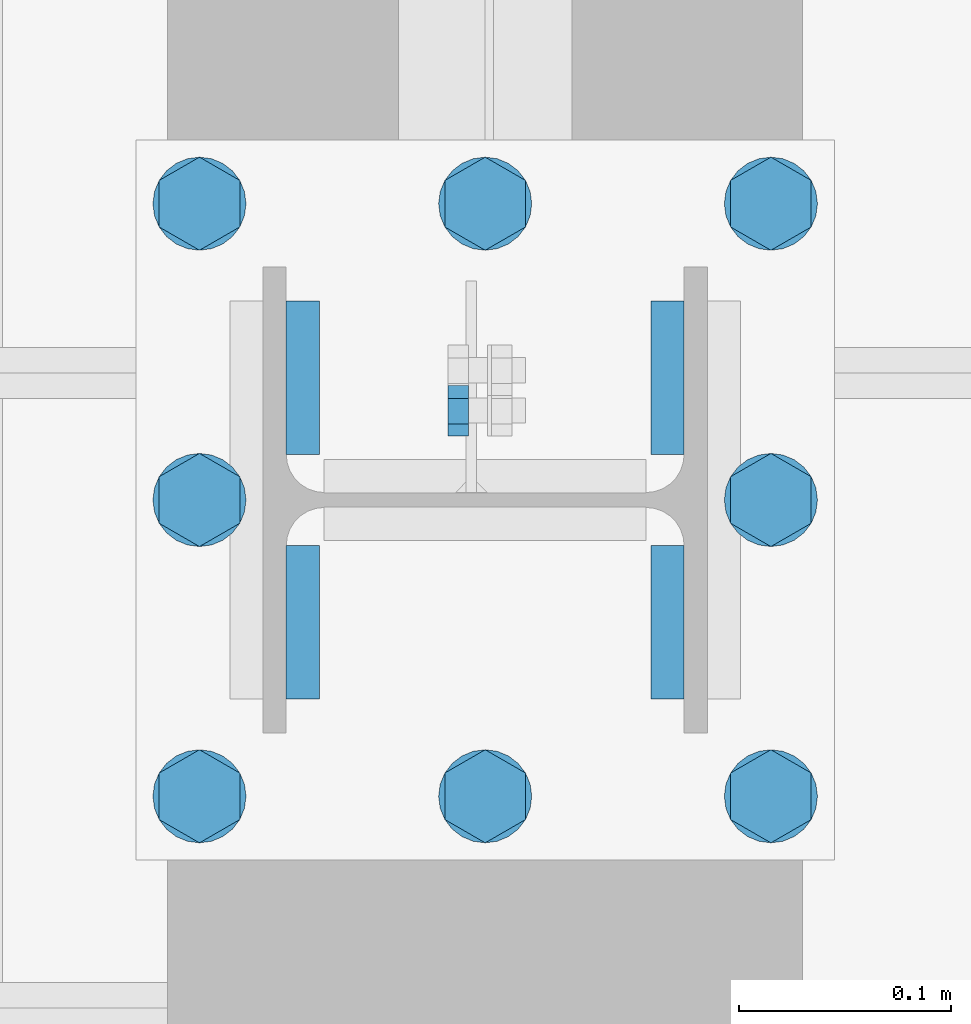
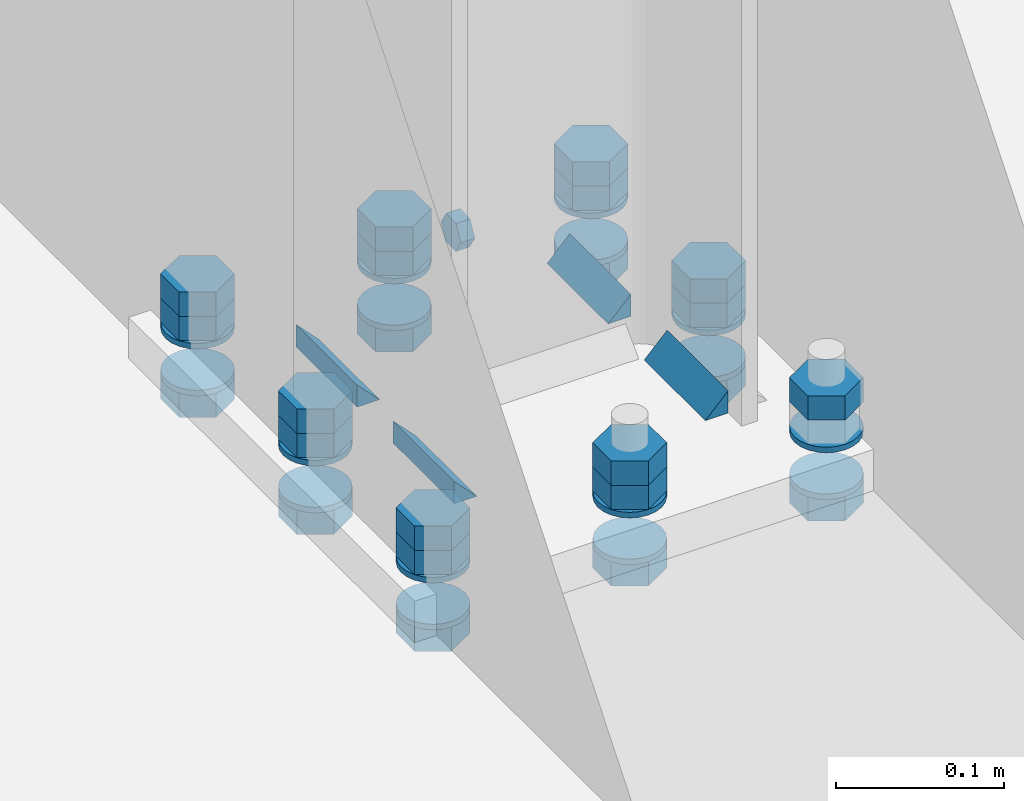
# One storey, part 20 of 29: 40 mechanical fasteners, 8 fasteners.
"""IFC4 building model written with IfcOpenShell, lengths in metres."""

from ifc_helpers import new_model, si_unit, frame, origin_with_axes, place, context, project, spatial, polyline, outline, extrude, type_object, element, save


model = new_model("IFC4")

# Units and contexts
model_context = context("Model", 3, precision=1e-05, world=origin_with_axes())
ifc_project = project(units=[si_unit("LENGTHUNIT", "METRE"), si_unit("AREAUNIT", "SQUARE_METRE"), si_unit("VOLUMEUNIT", "CUBIC_METRE"), si_unit("MASSUNIT", "GRAM", prefix="KILO"), si_unit("TIMEUNIT", "SECOND"), si_unit("PLANEANGLEUNIT", "RADIAN"), si_unit("SOLIDANGLEUNIT", "STERADIAN"), si_unit("THERMODYNAMICTEMPERATUREUNIT", "DEGREE_CELSIUS")], contexts=[model_context])

# Site, building, storey
placement_1 = place(None, origin_with_axes())
site = spatial("IfcSite", under=ifc_project, at=placement_1, Name="Italia", CompositionType="ELEMENT")
building = spatial("IfcBuilding", under=site, at=placement_1, Name="Capannone", CompositionType="ELEMENT")
storey = spatial("IfcBuildingStorey", under=building, at=placement_1, Name="Storey 0", CompositionType="ELEMENT", Elevation=0.0)

# Fasteners
fastener_type_1 = type_object("IfcFastenerType", Name="Collegamenti 0001_0101 0002_0102 0003_0103 0004_0104 0005_0105 0006_0106 0007_0107 0008_0108 0009_0109 0010_0110 0011_0111 0012_0112", PredefinedType="WELD")
placement_2 = place(placement_1, origin_with_axes())
fastener_1_placement = place(placement_2, origin_with_axes())
element("IfcFastener", 1, at=fastener_1_placement, inside=storey, type_object=fastener_type_1, Name="Collegamenti 0001_0101 0002_0102 0003_0103 0004_0104 0005_0105 0006_0106 0007_0107 0008_0108 0009_0109 0010_0110 0011_0111 0012_0112", context=model_context, shape_type="SweptSolid", body=[
    extrude(outline(polyline([(0.0, 0.0), (0.0156882, 0.0161734), (0.0156882, 0.0), (0.0, 0.0)])), frame((-0.0783618, 12.0215, 0.02995), z_axis=(0.0, 1.0, 0.0), x_axis=(-1.0, 0.0, 0.0)), (0.0, 0.0, 1.0), 0.0726004),
])
fastener_type_2 = type_object("IfcFastenerType", Name="Collegamenti 0001_0101 0002_0102 0003_0103 0004_0104 0005_0105 0006_0106 0007_0107 0008_0108 0009_0109 0010_0110 0011_0111 0012_0112", PredefinedType="WELD")
fastener_2_placement = place(placement_2, origin_with_axes())
element("IfcFastener", 2, at=fastener_2_placement, inside=storey, type_object=fastener_type_2, Name="Collegamenti 0001_0101 0002_0102 0003_0103 0004_0104 0005_0105 0006_0106 0007_0107 0008_0108 0009_0109 0010_0110 0011_0111 0012_0112", context=model_context, shape_type="SweptSolid", body=[
    extrude(outline(polyline([(0.0, 0.0), (0.0156882, 0.0161734), (0.0156882, 0.0), (0.0, 0.0)])), frame((0.0783618, 12.0941, 0.02995), z_axis=(0.0, -1.0, 0.0), x_axis=(1.0, 0.0, 0.0)), (0.0, 0.0, 1.0), 0.0726004),
])
fastener_type_3 = type_object("IfcFastenerType", Name="Collegamenti 0001_0101 0002_0102 0003_0103 0004_0104 0005_0105 0006_0106 0007_0107 0008_0108 0009_0109 0010_0110 0011_0111 0012_0112", PredefinedType="WELD")
fastener_3_placement = place(placement_2, origin_with_axes())
element("IfcFastener", 3, at=fastener_3_placement, inside=storey, type_object=fastener_type_3, Name="Collegamenti 0001_0101 0002_0102 0003_0103 0004_0104 0005_0105 0006_0106 0007_0107 0008_0108 0009_0109 0010_0110 0011_0111 0012_0112", context=model_context, shape_type="SweptSolid", body=[
    extrude(outline(polyline([(0.0, 0.0), (0.0156882, 0.0161734), (0.0156882, 0.0), (0.0, 0.0)])), frame((0.0783618, 11.9785, 0.02995), z_axis=(0.0, -1.0, 0.0), x_axis=(1.0, 0.0, 0.0)), (0.0, 0.0, 1.0), 0.0726004),
])
fastener_type_4 = type_object("IfcFastenerType", Name="Collegamenti 0001_0101 0002_0102 0003_0103 0004_0104 0005_0105 0006_0106 0007_0107 0008_0108 0009_0109 0010_0110 0011_0111 0012_0112", PredefinedType="WELD")
fastener_4_placement = place(placement_2, origin_with_axes())
element("IfcFastener", 4, at=fastener_4_placement, inside=storey, type_object=fastener_type_4, Name="Collegamenti 0001_0101 0002_0102 0003_0103 0004_0104 0005_0105 0006_0106 0007_0107 0008_0108 0009_0109 0010_0110 0011_0111 0012_0112", context=model_context, shape_type="SweptSolid", body=[
    extrude(outline(polyline([(0.0, 0.0), (0.0156882, 0.0161734), (0.0156882, 0.0), (0.0, 0.0)])), frame((-0.0783618, 11.9059, 0.02995), z_axis=(0.0, 1.0, 0.0), x_axis=(-1.0, 0.0, 0.0)), (0.0, 0.0, 1.0), 0.0726004),
])
fastener_type_5 = type_object("IfcFastenerType", Name="Collegamenti 0001_0101 0002_0102 0003_0103 0004_0104 0005_0105 0006_0106 0007_0107 0008_0108 0009_0109 0010_0110 0011_0111 0012_0112", PredefinedType="WELD")
fastener_5_placement = place(placement_2, origin_with_axes())
element("IfcFastener", 5, at=fastener_5_placement, inside=storey, type_object=fastener_type_5, Name="Collegamenti 0001_0101 0002_0102 0003_0103 0004_0104 0005_0105 0006_0106 0007_0107 0008_0108 0009_0109 0010_0110 0011_0111 0012_0112", context=model_context, shape_type="SweptSolid", body=[
    extrude(outline(polyline([(0.0, 0.0), (0.0156882, 0.0161734), (0.0156882, 0.0), (0.0, 0.0)])), frame((-0.0783618, 12.0215, 0.02995), z_axis=(0.0, 1.0, 0.0), x_axis=(-1.0, 0.0, 0.0)), (0.0, 0.0, 1.0), 0.0726004),
])
fastener_type_6 = type_object("IfcFastenerType", Name="Collegamenti 0001_0101 0002_0102 0003_0103 0004_0104 0005_0105 0006_0106 0007_0107 0008_0108 0009_0109 0010_0110 0011_0111 0012_0112", PredefinedType="WELD")
fastener_6_placement = place(placement_2, origin_with_axes())
element("IfcFastener", 6, at=fastener_6_placement, inside=storey, type_object=fastener_type_6, Name="Collegamenti 0001_0101 0002_0102 0003_0103 0004_0104 0005_0105 0006_0106 0007_0107 0008_0108 0009_0109 0010_0110 0011_0111 0012_0112", context=model_context, shape_type="SweptSolid", body=[
    extrude(outline(polyline([(0.0, 0.0), (0.0156882, 0.0161734), (0.0156882, 0.0), (0.0, 0.0)])), frame((0.0783618, 12.0941, 0.02995), z_axis=(0.0, -1.0, 0.0), x_axis=(1.0, 0.0, 0.0)), (0.0, 0.0, 1.0), 0.0726004),
])
fastener_type_7 = type_object("IfcFastenerType", Name="Collegamenti 0001_0101 0002_0102 0003_0103 0004_0104 0005_0105 0006_0106 0007_0107 0008_0108 0009_0109 0010_0110 0011_0111 0012_0112", PredefinedType="WELD")
fastener_7_placement = place(placement_2, origin_with_axes())
element("IfcFastener", 7, at=fastener_7_placement, inside=storey, type_object=fastener_type_7, Name="Collegamenti 0001_0101 0002_0102 0003_0103 0004_0104 0005_0105 0006_0106 0007_0107 0008_0108 0009_0109 0010_0110 0011_0111 0012_0112", context=model_context, shape_type="SweptSolid", body=[
    extrude(outline(polyline([(0.0, 0.0), (0.0156882, 0.0161734), (0.0156882, 0.0), (0.0, 0.0)])), frame((0.0783618, 11.9785, 0.02995), z_axis=(0.0, -1.0, 0.0), x_axis=(1.0, 0.0, 0.0)), (0.0, 0.0, 1.0), 0.0726004),
])
fastener_type_8 = type_object("IfcFastenerType", Name="Collegamenti 0001_0101 0002_0102 0003_0103 0004_0104 0005_0105 0006_0106 0007_0107 0008_0108 0009_0109 0010_0110 0011_0111 0012_0112", PredefinedType="WELD")
fastener_8_placement = place(placement_2, origin_with_axes())
element("IfcFastener", 8, at=fastener_8_placement, inside=storey, type_object=fastener_type_8, Name="Collegamenti 0001_0101 0002_0102 0003_0103 0004_0104 0005_0105 0006_0106 0007_0107 0008_0108 0009_0109 0010_0110 0011_0111 0012_0112", context=model_context, shape_type="SweptSolid", body=[
    extrude(outline(polyline([(0.0, 0.0), (0.0156882, 0.0161734), (0.0156882, 0.0), (0.0, 0.0)])), frame((-0.0783618, 11.9059, 0.02995), z_axis=(0.0, 1.0, 0.0), x_axis=(-1.0, 0.0, 0.0)), (0.0, 0.0, 1.0), 0.0726004),
])

# Mechanical fasteners
mechanical_fastener_type_1 = type_object("IfcMechanicalFastenerType", Name="Collegamenti 0001_0101 0002_0102 0003_0103 0004_0104 0005_0105 0006_0106 0007_0107 0008_0108 0009_0109 0010_0110 0011_0111 0012_0112", PredefinedType="BOLT")
mechanical_fastener_1_placement = place(placement_2, origin_with_axes())
element("IfcMechanicalFastener", 9, at=mechanical_fastener_1_placement, inside=storey, type_object=mechanical_fastener_type_1, Name="Collegamenti 0001_0101 0002_0102 0003_0103 0004_0104 0005_0105 0006_0106 0007_0107 0008_0108 0009_0109 0010_0110 0011_0111 0012_0112", NominalDiameter=0.0219998, context=model_context, shape_type="SweptSolid", body=[
    extrude(outline(polyline([(0.0, 0.0), (-0.0220003, 0.0), (-0.033, 0.0190526), (-0.0220003, 0.0381051), (0.0, 0.0381051), (0.0109997, 0.0190526), (0.0, 0.0)])), frame((0.154053, 11.871, 0.0516), z_axis=(0.0, 0.0, 1.0), x_axis=(0.0, 1.0, 0.0)), (0.0, 0.0, 1.0), 0.0176),
])
mechanical_fastener_type_2 = type_object("IfcMechanicalFastenerType", Name="Collegamenti 0001_0101 0002_0102 0003_0103 0004_0104 0005_0105 0006_0106 0007_0107 0008_0108 0009_0109 0010_0110 0011_0111 0012_0112", PredefinedType="BOLT")
mechanical_fastener_2_placement = place(placement_2, origin_with_axes())
element("IfcMechanicalFastener", 10, at=mechanical_fastener_2_placement, inside=storey, type_object=mechanical_fastener_type_2, Name="Collegamenti 0001_0101 0002_0102 0003_0103 0004_0104 0005_0105 0006_0106 0007_0107 0008_0108 0009_0109 0010_0110 0011_0111 0012_0112", NominalDiameter=0.0219998, context=model_context, shape_type="SweptSolid", body=[
    extrude(outline(polyline([(0.0, 0.0), (-0.0220003, 0.0), (-0.033, 0.0190526), (-0.0220003, 0.0381051), (0.0, 0.0381051), (0.0109997, 0.0190526), (0.0, 0.0)])), frame((0.154053, 11.871, -0.0216), z_axis=(0.0, 0.0, 1.0), x_axis=(0.0, 1.0, 0.0)), (0.0, 0.0, 1.0), 0.0176),
])
mechanical_fastener_type_3 = type_object("IfcMechanicalFastenerType", Name="Collegamenti 0001_0101 0002_0102 0003_0103 0004_0104 0005_0105 0006_0106 0007_0107 0008_0108 0009_0109 0010_0110 0011_0111 0012_0112", PredefinedType="BOLT")
mechanical_fastener_3_placement = place(placement_2, origin_with_axes())
element("IfcMechanicalFastener", 11, at=mechanical_fastener_3_placement, inside=storey, type_object=mechanical_fastener_type_3, Name="Collegamenti 0001_0101 0002_0102 0003_0103 0004_0104 0005_0105 0006_0106 0007_0107 0008_0108 0009_0109 0010_0110 0011_0111 0012_0112", NominalDiameter=0.044, context=model_context, shape_type="SweptSolid", body=[
    extrude(outline(polyline([(0.0, 0.0), (-0.000749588, -0.00569402), (-0.00294781, -0.011), (-0.00644398, -0.0155564), (-0.0110006, -0.0190526), (-0.0163059, -0.0212504), (-0.0220003, -0.022), (-0.0276947, -0.0212504), (-0.033, -0.0190526), (-0.0375566, -0.0155564), (-0.0410528, -0.011), (-0.043251, -0.00569402), (-0.0440006, 0.0), (-0.043251, 0.00569402), (-0.0410528, 0.011), (-0.0375566, 0.0155564), (-0.033, 0.0190526), (-0.0276947, 0.0212504), (-0.0220003, 0.022), (-0.0163059, 0.0212504), (-0.0110006, 0.0190526), (-0.00644398, 0.0155563), (-0.00294781, 0.011), (-0.000749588, 0.00569402), (0.0, 0.0)])), frame((0.135, 11.882, 0.03), z_axis=(0.0, 0.0, 1.0), x_axis=(0.0, 1.0, 0.0)), (0.0, 0.0, 1.0), 0.004),
])
mechanical_fastener_type_4 = type_object("IfcMechanicalFastenerType", Name="Collegamenti 0001_0101 0002_0102 0003_0103 0004_0104 0005_0105 0006_0106 0007_0107 0008_0108 0009_0109 0010_0110 0011_0111 0012_0112", PredefinedType="BOLT")
mechanical_fastener_4_placement = place(placement_2, origin_with_axes())
element("IfcMechanicalFastener", 12, at=mechanical_fastener_4_placement, inside=storey, type_object=mechanical_fastener_type_4, Name="Collegamenti 0001_0101 0002_0102 0003_0103 0004_0104 0005_0105 0006_0106 0007_0107 0008_0108 0009_0109 0010_0110 0011_0111 0012_0112", NominalDiameter=0.044, context=model_context, shape_type="SweptSolid", body=[
    extrude(outline(polyline([(0.0, 0.0), (-0.000749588, -0.00569402), (-0.00294781, -0.011), (-0.00644398, -0.0155564), (-0.0110006, -0.0190526), (-0.0163059, -0.0212504), (-0.0220003, -0.022), (-0.0276947, -0.0212504), (-0.033, -0.0190526), (-0.0375566, -0.0155564), (-0.0410528, -0.011), (-0.043251, -0.00569402), (-0.0440006, 0.0), (-0.043251, 0.00569402), (-0.0410528, 0.011), (-0.0375566, 0.0155564), (-0.033, 0.0190526), (-0.0276947, 0.0212504), (-0.0220003, 0.022), (-0.0163059, 0.0212504), (-0.0110006, 0.0190526), (-0.00644398, 0.0155563), (-0.00294781, 0.011), (-0.000749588, 0.00569402), (0.0, 0.0)])), frame((0.135, 11.882, -0.004), z_axis=(0.0, 0.0, 1.0), x_axis=(0.0, 1.0, 0.0)), (0.0, 0.0, 1.0), 0.004),
])
mechanical_fastener_type_5 = type_object("IfcMechanicalFastenerType", Name="Collegamenti 0001_0101 0002_0102 0003_0103 0004_0104 0005_0105 0006_0106 0007_0107 0008_0108 0009_0109 0010_0110 0011_0111 0012_0112", PredefinedType="BOLT")
mechanical_fastener_5_placement = place(placement_2, origin_with_axes())
element("IfcMechanicalFastener", 13, at=mechanical_fastener_5_placement, inside=storey, type_object=mechanical_fastener_type_5, Name="Collegamenti 0001_0101 0002_0102 0003_0103 0004_0104 0005_0105 0006_0106 0007_0107 0008_0108 0009_0109 0010_0110 0011_0111 0012_0112", NominalDiameter=0.0219994, context=model_context, shape_type="SweptSolid", body=[
    extrude(outline(polyline([(0.0, 0.0), (-0.0219994, 0.0), (-0.033, 0.0190526), (-0.0219994, 0.0381051), (0.0, 0.0381051), (0.0110006, 0.0190526), (0.0, 0.0)])), frame((0.154053, 12.011, 0.034), z_axis=(0.0, 0.0, 1.0), x_axis=(0.0, 1.0, 0.0)), (0.0, 0.0, 1.0), 0.0176),
])
mechanical_fastener_type_6 = type_object("IfcMechanicalFastenerType", Name="Collegamenti 0001_0101 0002_0102 0003_0103 0004_0104 0005_0105 0006_0106 0007_0107 0008_0108 0009_0109 0010_0110 0011_0111 0012_0112", PredefinedType="BOLT")
mechanical_fastener_6_placement = place(placement_2, origin_with_axes())
element("IfcMechanicalFastener", 14, at=mechanical_fastener_6_placement, inside=storey, type_object=mechanical_fastener_type_6, Name="Collegamenti 0001_0101 0002_0102 0003_0103 0004_0104 0005_0105 0006_0106 0007_0107 0008_0108 0009_0109 0010_0110 0011_0111 0012_0112", NominalDiameter=0.0219994, context=model_context, shape_type="SweptSolid", body=[
    extrude(outline(polyline([(0.0, 0.0), (-0.0219994, 0.0), (-0.033, 0.0190526), (-0.0219994, 0.0381051), (0.0, 0.0381051), (0.0110006, 0.0190526), (0.0, 0.0)])), frame((0.154053, 12.011, 0.0516), z_axis=(0.0, 0.0, 1.0), x_axis=(0.0, 1.0, 0.0)), (0.0, 0.0, 1.0), 0.0176),
])
mechanical_fastener_type_7 = type_object("IfcMechanicalFastenerType", Name="Collegamenti 0001_0101 0002_0102 0003_0103 0004_0104 0005_0105 0006_0106 0007_0107 0008_0108 0009_0109 0010_0110 0011_0111 0012_0112", PredefinedType="BOLT")
mechanical_fastener_7_placement = place(placement_2, origin_with_axes())
element("IfcMechanicalFastener", 15, at=mechanical_fastener_7_placement, inside=storey, type_object=mechanical_fastener_type_7, Name="Collegamenti 0001_0101 0002_0102 0003_0103 0004_0104 0005_0105 0006_0106 0007_0107 0008_0108 0009_0109 0010_0110 0011_0111 0012_0112", NominalDiameter=0.0219994, context=model_context, shape_type="SweptSolid", body=[
    extrude(outline(polyline([(0.0, 0.0), (-0.0219994, 0.0), (-0.033, 0.0190526), (-0.0219994, 0.0381051), (0.0, 0.0381051), (0.0110006, 0.0190526), (0.0, 0.0)])), frame((0.154053, 12.011, -0.0216), z_axis=(0.0, 0.0, 1.0), x_axis=(0.0, 1.0, 0.0)), (0.0, 0.0, 1.0), 0.0176),
])
mechanical_fastener_type_8 = type_object("IfcMechanicalFastenerType", Name="Collegamenti 0001_0101 0002_0102 0003_0103 0004_0104 0005_0105 0006_0106 0007_0107 0008_0108 0009_0109 0010_0110 0011_0111 0012_0112", PredefinedType="BOLT")
mechanical_fastener_8_placement = place(placement_2, origin_with_axes())
element("IfcMechanicalFastener", 16, at=mechanical_fastener_8_placement, inside=storey, type_object=mechanical_fastener_type_8, Name="Collegamenti 0001_0101 0002_0102 0003_0103 0004_0104 0005_0105 0006_0106 0007_0107 0008_0108 0009_0109 0010_0110 0011_0111 0012_0112", NominalDiameter=0.044, context=model_context, shape_type="SweptSolid", body=[
    extrude(outline(polyline([(0.0, 0.0), (-0.000749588, -0.00569402), (-0.00294781, -0.011), (-0.00644398, -0.0155564), (-0.0110006, -0.0190526), (-0.0163059, -0.0212504), (-0.0220003, -0.022), (-0.0276947, -0.0212504), (-0.033, -0.0190526), (-0.0375566, -0.0155564), (-0.0410528, -0.011), (-0.043251, -0.00569402), (-0.0440006, 0.0), (-0.043251, 0.00569402), (-0.0410528, 0.011), (-0.0375566, 0.0155564), (-0.033, 0.0190526), (-0.0276947, 0.0212504), (-0.0220003, 0.022), (-0.0163059, 0.0212504), (-0.0110006, 0.0190526), (-0.00644398, 0.0155563), (-0.00294781, 0.011), (-0.000749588, 0.00569402), (0.0, 0.0)])), frame((0.135, 12.022, 0.03), z_axis=(0.0, 0.0, 1.0), x_axis=(0.0, 1.0, 0.0)), (0.0, 0.0, 1.0), 0.004),
])
mechanical_fastener_type_9 = type_object("IfcMechanicalFastenerType", Name="Collegamenti 0001_0101 0002_0102 0003_0103 0004_0104 0005_0105 0006_0106 0007_0107 0008_0108 0009_0109 0010_0110 0011_0111 0012_0112", PredefinedType="BOLT")
mechanical_fastener_9_placement = place(placement_2, origin_with_axes())
element("IfcMechanicalFastener", 17, at=mechanical_fastener_9_placement, inside=storey, type_object=mechanical_fastener_type_9, Name="Collegamenti 0001_0101 0002_0102 0003_0103 0004_0104 0005_0105 0006_0106 0007_0107 0008_0108 0009_0109 0010_0110 0011_0111 0012_0112", NominalDiameter=0.044, context=model_context, shape_type="SweptSolid", body=[
    extrude(outline(polyline([(0.0, 0.0), (-0.000749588, -0.00569402), (-0.00294781, -0.011), (-0.00644398, -0.0155564), (-0.0110006, -0.0190526), (-0.0163059, -0.0212504), (-0.0220003, -0.022), (-0.0276947, -0.0212504), (-0.033, -0.0190526), (-0.0375566, -0.0155564), (-0.0410528, -0.011), (-0.043251, -0.00569402), (-0.0440006, 0.0), (-0.043251, 0.00569402), (-0.0410528, 0.011), (-0.0375566, 0.0155564), (-0.033, 0.0190526), (-0.0276947, 0.0212504), (-0.0220003, 0.022), (-0.0163059, 0.0212504), (-0.0110006, 0.0190526), (-0.00644398, 0.0155563), (-0.00294781, 0.011), (-0.000749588, 0.00569402), (0.0, 0.0)])), frame((0.135, 12.022, -0.004), z_axis=(0.0, 0.0, 1.0), x_axis=(0.0, 1.0, 0.0)), (0.0, 0.0, 1.0), 0.004),
])
mechanical_fastener_type_10 = type_object("IfcMechanicalFastenerType", Name="Collegamenti 0001_0101 0002_0102 0003_0103 0004_0104 0005_0105 0006_0106 0007_0107 0008_0108 0009_0109 0010_0110 0011_0111 0012_0112", PredefinedType="BOLT")
mechanical_fastener_10_placement = place(placement_2, origin_with_axes())
element("IfcMechanicalFastener", 18, at=mechanical_fastener_10_placement, inside=storey, type_object=mechanical_fastener_type_10, Name="Collegamenti 0001_0101 0002_0102 0003_0103 0004_0104 0005_0105 0006_0106 0007_0107 0008_0108 0009_0109 0010_0110 0011_0111 0012_0112", NominalDiameter=0.0219998, context=model_context, shape_type="SweptSolid", body=[
    extrude(outline(polyline([(0.0, 0.0), (-0.0220003, 0.0), (-0.033, 0.0190526), (-0.0220003, 0.0381051), (0.0, 0.0381051), (0.0109997, 0.0190526), (0.0, 0.0)])), frame((0.154053, 12.151, 0.034), z_axis=(0.0, 0.0, 1.0), x_axis=(0.0, 1.0, 0.0)), (0.0, 0.0, 1.0), 0.0176),
])
mechanical_fastener_type_11 = type_object("IfcMechanicalFastenerType", Name="Collegamenti 0001_0101 0002_0102 0003_0103 0004_0104 0005_0105 0006_0106 0007_0107 0008_0108 0009_0109 0010_0110 0011_0111 0012_0112", PredefinedType="BOLT")
mechanical_fastener_11_placement = place(placement_2, origin_with_axes())
element("IfcMechanicalFastener", 19, at=mechanical_fastener_11_placement, inside=storey, type_object=mechanical_fastener_type_11, Name="Collegamenti 0001_0101 0002_0102 0003_0103 0004_0104 0005_0105 0006_0106 0007_0107 0008_0108 0009_0109 0010_0110 0011_0111 0012_0112", NominalDiameter=0.0219998, context=model_context, shape_type="SweptSolid", body=[
    extrude(outline(polyline([(0.0, 0.0), (-0.0220003, 0.0), (-0.033, 0.0190526), (-0.0220003, 0.0381051), (0.0, 0.0381051), (0.0109997, 0.0190526), (0.0, 0.0)])), frame((0.154053, 12.151, 0.0516), z_axis=(0.0, 0.0, 1.0), x_axis=(0.0, 1.0, 0.0)), (0.0, 0.0, 1.0), 0.0176),
])
mechanical_fastener_type_12 = type_object("IfcMechanicalFastenerType", Name="Collegamenti 0001_0101 0002_0102 0003_0103 0004_0104 0005_0105 0006_0106 0007_0107 0008_0108 0009_0109 0010_0110 0011_0111 0012_0112", PredefinedType="BOLT")
mechanical_fastener_12_placement = place(placement_2, origin_with_axes())
element("IfcMechanicalFastener", 20, at=mechanical_fastener_12_placement, inside=storey, type_object=mechanical_fastener_type_12, Name="Collegamenti 0001_0101 0002_0102 0003_0103 0004_0104 0005_0105 0006_0106 0007_0107 0008_0108 0009_0109 0010_0110 0011_0111 0012_0112", NominalDiameter=0.0219998, context=model_context, shape_type="SweptSolid", body=[
    extrude(outline(polyline([(0.0, 0.0), (-0.0220003, 0.0), (-0.033, 0.0190526), (-0.0220003, 0.0381051), (0.0, 0.0381051), (0.0109997, 0.0190526), (0.0, 0.0)])), frame((0.154053, 12.151, -0.0216), z_axis=(0.0, 0.0, 1.0), x_axis=(0.0, 1.0, 0.0)), (0.0, 0.0, 1.0), 0.0176),
])
mechanical_fastener_type_13 = type_object("IfcMechanicalFastenerType", Name="Collegamenti 0001_0101 0002_0102 0003_0103 0004_0104 0005_0105 0006_0106 0007_0107 0008_0108 0009_0109 0010_0110 0011_0111 0012_0112", PredefinedType="BOLT")
mechanical_fastener_13_placement = place(placement_2, origin_with_axes())
element("IfcMechanicalFastener", 21, at=mechanical_fastener_13_placement, inside=storey, type_object=mechanical_fastener_type_13, Name="Collegamenti 0001_0101 0002_0102 0003_0103 0004_0104 0005_0105 0006_0106 0007_0107 0008_0108 0009_0109 0010_0110 0011_0111 0012_0112", NominalDiameter=0.044, context=model_context, shape_type="SweptSolid", body=[
    extrude(outline(polyline([(0.0, 0.0), (-0.000749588, -0.00569402), (-0.00294781, -0.011), (-0.00644398, -0.0155564), (-0.0110006, -0.0190526), (-0.0163059, -0.0212504), (-0.0220003, -0.022), (-0.0276947, -0.0212504), (-0.033, -0.0190526), (-0.0375566, -0.0155564), (-0.0410528, -0.011), (-0.043251, -0.00569402), (-0.0440006, 0.0), (-0.043251, 0.00569402), (-0.0410528, 0.011), (-0.0375566, 0.0155564), (-0.033, 0.0190526), (-0.0276947, 0.0212504), (-0.0220003, 0.022), (-0.0163059, 0.0212504), (-0.0110006, 0.0190526), (-0.00644398, 0.0155563), (-0.00294781, 0.011), (-0.000749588, 0.00569402), (0.0, 0.0)])), frame((0.135, 12.162, 0.03), z_axis=(0.0, 0.0, 1.0), x_axis=(0.0, 1.0, 0.0)), (0.0, 0.0, 1.0), 0.004),
])
mechanical_fastener_type_14 = type_object("IfcMechanicalFastenerType", Name="Collegamenti 0001_0101 0002_0102 0003_0103 0004_0104 0005_0105 0006_0106 0007_0107 0008_0108 0009_0109 0010_0110 0011_0111 0012_0112", PredefinedType="BOLT")
mechanical_fastener_14_placement = place(placement_2, origin_with_axes())
element("IfcMechanicalFastener", 22, at=mechanical_fastener_14_placement, inside=storey, type_object=mechanical_fastener_type_14, Name="Collegamenti 0001_0101 0002_0102 0003_0103 0004_0104 0005_0105 0006_0106 0007_0107 0008_0108 0009_0109 0010_0110 0011_0111 0012_0112", NominalDiameter=0.044, context=model_context, shape_type="SweptSolid", body=[
    extrude(outline(polyline([(0.0, 0.0), (-0.000749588, -0.00569402), (-0.00294781, -0.011), (-0.00644398, -0.0155564), (-0.0110006, -0.0190526), (-0.0163059, -0.0212504), (-0.0220003, -0.022), (-0.0276947, -0.0212504), (-0.033, -0.0190526), (-0.0375566, -0.0155564), (-0.0410528, -0.011), (-0.043251, -0.00569402), (-0.0440006, 0.0), (-0.043251, 0.00569402), (-0.0410528, 0.011), (-0.0375566, 0.0155564), (-0.033, 0.0190526), (-0.0276947, 0.0212504), (-0.0220003, 0.022), (-0.0163059, 0.0212504), (-0.0110006, 0.0190526), (-0.00644398, 0.0155563), (-0.00294781, 0.011), (-0.000749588, 0.00569402), (0.0, 0.0)])), frame((0.135, 12.162, -0.004), z_axis=(0.0, 0.0, 1.0), x_axis=(0.0, 1.0, 0.0)), (0.0, 0.0, 1.0), 0.004),
])
mechanical_fastener_type_15 = type_object("IfcMechanicalFastenerType", Name="Collegamenti 0001_0101 0002_0102 0003_0103 0004_0104 0005_0105 0006_0106 0007_0107 0008_0108 0009_0109 0010_0110 0011_0111 0012_0112", PredefinedType="BOLT")
mechanical_fastener_15_placement = place(placement_2, origin_with_axes())
element("IfcMechanicalFastener", 23, at=mechanical_fastener_15_placement, inside=storey, type_object=mechanical_fastener_type_15, Name="Collegamenti 0001_0101 0002_0102 0003_0103 0004_0104 0005_0105 0006_0106 0007_0107 0008_0108 0009_0109 0010_0110 0011_0111 0012_0112", NominalDiameter=0.0219998, context=model_context, shape_type="SweptSolid", body=[
    extrude(outline(polyline([(0.0, 0.0), (-0.0220003, 0.0), (-0.033, 0.0190526), (-0.0220003, 0.0381051), (0.0, 0.0381051), (0.0109997, 0.0190526), (0.0, 0.0)])), frame((0.0190526, 11.871, 0.034), z_axis=(0.0, 0.0, 1.0), x_axis=(0.0, 1.0, 0.0)), (0.0, 0.0, 1.0), 0.0176),
])
mechanical_fastener_type_16 = type_object("IfcMechanicalFastenerType", Name="Collegamenti 0001_0101 0002_0102 0003_0103 0004_0104 0005_0105 0006_0106 0007_0107 0008_0108 0009_0109 0010_0110 0011_0111 0012_0112", PredefinedType="BOLT")
mechanical_fastener_16_placement = place(placement_2, origin_with_axes())
element("IfcMechanicalFastener", 24, at=mechanical_fastener_16_placement, inside=storey, type_object=mechanical_fastener_type_16, Name="Collegamenti 0001_0101 0002_0102 0003_0103 0004_0104 0005_0105 0006_0106 0007_0107 0008_0108 0009_0109 0010_0110 0011_0111 0012_0112", NominalDiameter=0.0219998, context=model_context, shape_type="SweptSolid", body=[
    extrude(outline(polyline([(0.0, 0.0), (-0.0220003, 0.0), (-0.033, 0.0190526), (-0.0220003, 0.0381051), (0.0, 0.0381051), (0.0109997, 0.0190526), (0.0, 0.0)])), frame((0.0190526, 11.871, 0.0516), z_axis=(0.0, 0.0, 1.0), x_axis=(0.0, 1.0, 0.0)), (0.0, 0.0, 1.0), 0.0176),
])
mechanical_fastener_type_17 = type_object("IfcMechanicalFastenerType", Name="Collegamenti 0001_0101 0002_0102 0003_0103 0004_0104 0005_0105 0006_0106 0007_0107 0008_0108 0009_0109 0010_0110 0011_0111 0012_0112", PredefinedType="BOLT")
mechanical_fastener_17_placement = place(placement_2, origin_with_axes())
element("IfcMechanicalFastener", 25, at=mechanical_fastener_17_placement, inside=storey, type_object=mechanical_fastener_type_17, Name="Collegamenti 0001_0101 0002_0102 0003_0103 0004_0104 0005_0105 0006_0106 0007_0107 0008_0108 0009_0109 0010_0110 0011_0111 0012_0112", NominalDiameter=0.0219998, context=model_context, shape_type="SweptSolid", body=[
    extrude(outline(polyline([(0.0, 0.0), (-0.0220003, 0.0), (-0.033, 0.0190526), (-0.0220003, 0.0381051), (0.0, 0.0381051), (0.0109997, 0.0190526), (0.0, 0.0)])), frame((0.0190526, 11.871, -0.0216), z_axis=(0.0, 0.0, 1.0), x_axis=(0.0, 1.0, 0.0)), (0.0, 0.0, 1.0), 0.0176),
])
mechanical_fastener_type_18 = type_object("IfcMechanicalFastenerType", Name="Collegamenti 0001_0101 0002_0102 0003_0103 0004_0104 0005_0105 0006_0106 0007_0107 0008_0108 0009_0109 0010_0110 0011_0111 0012_0112", PredefinedType="BOLT")
mechanical_fastener_18_placement = place(placement_2, origin_with_axes())
element("IfcMechanicalFastener", 26, at=mechanical_fastener_18_placement, inside=storey, type_object=mechanical_fastener_type_18, Name="Collegamenti 0001_0101 0002_0102 0003_0103 0004_0104 0005_0105 0006_0106 0007_0107 0008_0108 0009_0109 0010_0110 0011_0111 0012_0112", NominalDiameter=0.044, context=model_context, shape_type="SweptSolid", body=[
    extrude(outline(polyline([(0.0, 0.0), (-0.000749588, -0.00569402), (-0.00294781, -0.011), (-0.00644398, -0.0155563), (-0.0110006, -0.0190526), (-0.0163059, -0.0212504), (-0.0220003, -0.022), (-0.0276947, -0.0212504), (-0.033, -0.0190526), (-0.0375566, -0.0155563), (-0.0410528, -0.011), (-0.043251, -0.00569402), (-0.0440006, 0.0), (-0.043251, 0.00569402), (-0.0410528, 0.011), (-0.0375566, 0.0155564), (-0.033, 0.0190526), (-0.0276947, 0.0212504), (-0.0220003, 0.022), (-0.0163059, 0.0212504), (-0.0110006, 0.0190526), (-0.00644398, 0.0155563), (-0.00294781, 0.011), (-0.000749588, 0.00569401), (0.0, 0.0)])), frame((0.0, 11.882, 0.03), z_axis=(0.0, 0.0, 1.0), x_axis=(0.0, 1.0, 0.0)), (0.0, 0.0, 1.0), 0.004),
])
mechanical_fastener_type_19 = type_object("IfcMechanicalFastenerType", Name="Collegamenti 0001_0101 0002_0102 0003_0103 0004_0104 0005_0105 0006_0106 0007_0107 0008_0108 0009_0109 0010_0110 0011_0111 0012_0112", PredefinedType="BOLT")
mechanical_fastener_19_placement = place(placement_2, origin_with_axes())
element("IfcMechanicalFastener", 27, at=mechanical_fastener_19_placement, inside=storey, type_object=mechanical_fastener_type_19, Name="Collegamenti 0001_0101 0002_0102 0003_0103 0004_0104 0005_0105 0006_0106 0007_0107 0008_0108 0009_0109 0010_0110 0011_0111 0012_0112", NominalDiameter=0.044, context=model_context, shape_type="SweptSolid", body=[
    extrude(outline(polyline([(0.0, 0.0), (-0.000749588, -0.00569402), (-0.00294781, -0.011), (-0.00644398, -0.0155563), (-0.0110006, -0.0190526), (-0.0163059, -0.0212504), (-0.0220003, -0.022), (-0.0276947, -0.0212504), (-0.033, -0.0190526), (-0.0375566, -0.0155563), (-0.0410528, -0.011), (-0.043251, -0.00569402), (-0.0440006, 0.0), (-0.043251, 0.00569402), (-0.0410528, 0.011), (-0.0375566, 0.0155564), (-0.033, 0.0190526), (-0.0276947, 0.0212504), (-0.0220003, 0.022), (-0.0163059, 0.0212504), (-0.0110006, 0.0190526), (-0.00644398, 0.0155563), (-0.00294781, 0.011), (-0.000749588, 0.00569401), (0.0, 0.0)])), frame((0.0, 11.882, -0.004), z_axis=(0.0, 0.0, 1.0), x_axis=(0.0, 1.0, 0.0)), (0.0, 0.0, 1.0), 0.004),
])
mechanical_fastener_type_20 = type_object("IfcMechanicalFastenerType", Name="Collegamenti 0001_0101 0002_0102 0003_0103 0004_0104 0005_0105 0006_0106 0007_0107 0008_0108 0009_0109 0010_0110 0011_0111 0012_0112", PredefinedType="BOLT")
mechanical_fastener_20_placement = place(placement_2, origin_with_axes())
element("IfcMechanicalFastener", 28, at=mechanical_fastener_20_placement, inside=storey, type_object=mechanical_fastener_type_20, Name="Collegamenti 0001_0101 0002_0102 0003_0103 0004_0104 0005_0105 0006_0106 0007_0107 0008_0108 0009_0109 0010_0110 0011_0111 0012_0112", NominalDiameter=0.0219998, context=model_context, shape_type="SweptSolid", body=[
    extrude(outline(polyline([(0.0, 0.0), (-0.0220003, 0.0), (-0.033, 0.0190526), (-0.0220003, 0.0381051), (0.0, 0.0381051), (0.0109997, 0.0190526), (0.0, 0.0)])), frame((0.0190526, 12.151, 0.034), z_axis=(0.0, 0.0, 1.0), x_axis=(0.0, 1.0, 0.0)), (0.0, 0.0, 1.0), 0.0176),
])
mechanical_fastener_type_21 = type_object("IfcMechanicalFastenerType", Name="Collegamenti 0001_0101 0002_0102 0003_0103 0004_0104 0005_0105 0006_0106 0007_0107 0008_0108 0009_0109 0010_0110 0011_0111 0012_0112", PredefinedType="BOLT")
mechanical_fastener_21_placement = place(placement_2, origin_with_axes())
element("IfcMechanicalFastener", 29, at=mechanical_fastener_21_placement, inside=storey, type_object=mechanical_fastener_type_21, Name="Collegamenti 0001_0101 0002_0102 0003_0103 0004_0104 0005_0105 0006_0106 0007_0107 0008_0108 0009_0109 0010_0110 0011_0111 0012_0112", NominalDiameter=0.0219998, context=model_context, shape_type="SweptSolid", body=[
    extrude(outline(polyline([(0.0, 0.0), (-0.0220003, 0.0), (-0.033, 0.0190526), (-0.0220003, 0.0381051), (0.0, 0.0381051), (0.0109997, 0.0190526), (0.0, 0.0)])), frame((0.0190526, 12.151, 0.0516), z_axis=(0.0, 0.0, 1.0), x_axis=(0.0, 1.0, 0.0)), (0.0, 0.0, 1.0), 0.0176),
])
mechanical_fastener_type_22 = type_object("IfcMechanicalFastenerType", Name="Collegamenti 0001_0101 0002_0102 0003_0103 0004_0104 0005_0105 0006_0106 0007_0107 0008_0108 0009_0109 0010_0110 0011_0111 0012_0112", PredefinedType="BOLT")
mechanical_fastener_22_placement = place(placement_2, origin_with_axes())
element("IfcMechanicalFastener", 30, at=mechanical_fastener_22_placement, inside=storey, type_object=mechanical_fastener_type_22, Name="Collegamenti 0001_0101 0002_0102 0003_0103 0004_0104 0005_0105 0006_0106 0007_0107 0008_0108 0009_0109 0010_0110 0011_0111 0012_0112", NominalDiameter=0.0219998, context=model_context, shape_type="SweptSolid", body=[
    extrude(outline(polyline([(0.0, 0.0), (-0.0220003, 0.0), (-0.033, 0.0190526), (-0.0220003, 0.0381051), (0.0, 0.0381051), (0.0109997, 0.0190526), (0.0, 0.0)])), frame((0.0190526, 12.151, -0.0216), z_axis=(0.0, 0.0, 1.0), x_axis=(0.0, 1.0, 0.0)), (0.0, 0.0, 1.0), 0.0176),
])
mechanical_fastener_type_23 = type_object("IfcMechanicalFastenerType", Name="Collegamenti 0001_0101 0002_0102 0003_0103 0004_0104 0005_0105 0006_0106 0007_0107 0008_0108 0009_0109 0010_0110 0011_0111 0012_0112", PredefinedType="BOLT")
mechanical_fastener_23_placement = place(placement_2, origin_with_axes())
element("IfcMechanicalFastener", 31, at=mechanical_fastener_23_placement, inside=storey, type_object=mechanical_fastener_type_23, Name="Collegamenti 0001_0101 0002_0102 0003_0103 0004_0104 0005_0105 0006_0106 0007_0107 0008_0108 0009_0109 0010_0110 0011_0111 0012_0112", NominalDiameter=0.044, context=model_context, shape_type="SweptSolid", body=[
    extrude(outline(polyline([(0.0, 0.0), (-0.000749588, -0.00569402), (-0.00294781, -0.011), (-0.00644398, -0.0155563), (-0.0110006, -0.0190526), (-0.0163059, -0.0212504), (-0.0220003, -0.022), (-0.0276947, -0.0212504), (-0.033, -0.0190526), (-0.0375566, -0.0155563), (-0.0410528, -0.011), (-0.043251, -0.00569402), (-0.0440006, 0.0), (-0.043251, 0.00569402), (-0.0410528, 0.011), (-0.0375566, 0.0155564), (-0.033, 0.0190526), (-0.0276947, 0.0212504), (-0.0220003, 0.022), (-0.0163059, 0.0212504), (-0.0110006, 0.0190526), (-0.00644398, 0.0155563), (-0.00294781, 0.011), (-0.000749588, 0.00569401), (0.0, 0.0)])), frame((0.0, 12.162, 0.03), z_axis=(0.0, 0.0, 1.0), x_axis=(0.0, 1.0, 0.0)), (0.0, 0.0, 1.0), 0.004),
])
mechanical_fastener_type_24 = type_object("IfcMechanicalFastenerType", Name="Collegamenti 0001_0101 0002_0102 0003_0103 0004_0104 0005_0105 0006_0106 0007_0107 0008_0108 0009_0109 0010_0110 0011_0111 0012_0112", PredefinedType="BOLT")
mechanical_fastener_24_placement = place(placement_2, origin_with_axes())
element("IfcMechanicalFastener", 32, at=mechanical_fastener_24_placement, inside=storey, type_object=mechanical_fastener_type_24, Name="Collegamenti 0001_0101 0002_0102 0003_0103 0004_0104 0005_0105 0006_0106 0007_0107 0008_0108 0009_0109 0010_0110 0011_0111 0012_0112", NominalDiameter=0.044, context=model_context, shape_type="SweptSolid", body=[
    extrude(outline(polyline([(0.0, 0.0), (-0.000749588, -0.00569402), (-0.00294781, -0.011), (-0.00644398, -0.0155563), (-0.0110006, -0.0190526), (-0.0163059, -0.0212504), (-0.0220003, -0.022), (-0.0276947, -0.0212504), (-0.033, -0.0190526), (-0.0375566, -0.0155563), (-0.0410528, -0.011), (-0.043251, -0.00569402), (-0.0440006, 0.0), (-0.043251, 0.00569402), (-0.0410528, 0.011), (-0.0375566, 0.0155564), (-0.033, 0.0190526), (-0.0276947, 0.0212504), (-0.0220003, 0.022), (-0.0163059, 0.0212504), (-0.0110006, 0.0190526), (-0.00644398, 0.0155563), (-0.00294781, 0.011), (-0.000749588, 0.00569401), (0.0, 0.0)])), frame((0.0, 12.162, -0.004), z_axis=(0.0, 0.0, 1.0), x_axis=(0.0, 1.0, 0.0)), (0.0, 0.0, 1.0), 0.004),
])
mechanical_fastener_type_25 = type_object("IfcMechanicalFastenerType", Name="Collegamenti 0001_0101 0002_0102 0003_0103 0004_0104 0005_0105 0006_0106 0007_0107 0008_0108 0009_0109 0010_0110 0011_0111 0012_0112", PredefinedType="BOLT")
mechanical_fastener_25_placement = place(placement_2, origin_with_axes())
element("IfcMechanicalFastener", 33, at=mechanical_fastener_25_placement, inside=storey, type_object=mechanical_fastener_type_25, Name="Collegamenti 0001_0101 0002_0102 0003_0103 0004_0104 0005_0105 0006_0106 0007_0107 0008_0108 0009_0109 0010_0110 0011_0111 0012_0112", NominalDiameter=0.0219998, context=model_context, shape_type="SweptSolid", body=[
    extrude(outline(polyline([(0.0, 0.0), (-0.0220003, 0.0), (-0.033, 0.0190526), (-0.0220003, 0.0381051), (0.0, 0.0381051), (0.0109997, 0.0190526), (0.0, 0.0)])), frame((-0.115947, 11.871, 0.034), z_axis=(0.0, 0.0, 1.0), x_axis=(0.0, 1.0, 0.0)), (0.0, 0.0, 1.0), 0.0176),
])
mechanical_fastener_type_26 = type_object("IfcMechanicalFastenerType", Name="Collegamenti 0001_0101 0002_0102 0003_0103 0004_0104 0005_0105 0006_0106 0007_0107 0008_0108 0009_0109 0010_0110 0011_0111 0012_0112", PredefinedType="BOLT")
mechanical_fastener_26_placement = place(placement_2, origin_with_axes())
element("IfcMechanicalFastener", 34, at=mechanical_fastener_26_placement, inside=storey, type_object=mechanical_fastener_type_26, Name="Collegamenti 0001_0101 0002_0102 0003_0103 0004_0104 0005_0105 0006_0106 0007_0107 0008_0108 0009_0109 0010_0110 0011_0111 0012_0112", NominalDiameter=0.0219998, context=model_context, shape_type="SweptSolid", body=[
    extrude(outline(polyline([(0.0, 0.0), (-0.0220003, 0.0), (-0.033, 0.0190526), (-0.0220003, 0.0381051), (0.0, 0.0381051), (0.0109997, 0.0190526), (0.0, 0.0)])), frame((-0.115947, 11.871, 0.0516), z_axis=(0.0, 0.0, 1.0), x_axis=(0.0, 1.0, 0.0)), (0.0, 0.0, 1.0), 0.0176),
])
mechanical_fastener_type_27 = type_object("IfcMechanicalFastenerType", Name="Collegamenti 0001_0101 0002_0102 0003_0103 0004_0104 0005_0105 0006_0106 0007_0107 0008_0108 0009_0109 0010_0110 0011_0111 0012_0112", PredefinedType="BOLT")
mechanical_fastener_27_placement = place(placement_2, origin_with_axes())
element("IfcMechanicalFastener", 35, at=mechanical_fastener_27_placement, inside=storey, type_object=mechanical_fastener_type_27, Name="Collegamenti 0001_0101 0002_0102 0003_0103 0004_0104 0005_0105 0006_0106 0007_0107 0008_0108 0009_0109 0010_0110 0011_0111 0012_0112", NominalDiameter=0.0219998, context=model_context, shape_type="SweptSolid", body=[
    extrude(outline(polyline([(0.0, 0.0), (-0.0220003, 0.0), (-0.033, 0.0190526), (-0.0220003, 0.0381051), (0.0, 0.0381051), (0.0109997, 0.0190526), (0.0, 0.0)])), frame((-0.115947, 11.871, -0.0216), z_axis=(0.0, 0.0, 1.0), x_axis=(0.0, 1.0, 0.0)), (0.0, 0.0, 1.0), 0.0176),
])
mechanical_fastener_type_28 = type_object("IfcMechanicalFastenerType", Name="Collegamenti 0001_0101 0002_0102 0003_0103 0004_0104 0005_0105 0006_0106 0007_0107 0008_0108 0009_0109 0010_0110 0011_0111 0012_0112", PredefinedType="BOLT")
mechanical_fastener_28_placement = place(placement_2, origin_with_axes())
element("IfcMechanicalFastener", 36, at=mechanical_fastener_28_placement, inside=storey, type_object=mechanical_fastener_type_28, Name="Collegamenti 0001_0101 0002_0102 0003_0103 0004_0104 0005_0105 0006_0106 0007_0107 0008_0108 0009_0109 0010_0110 0011_0111 0012_0112", NominalDiameter=0.044, context=model_context, shape_type="SweptSolid", body=[
    extrude(outline(polyline([(0.0, 0.0), (-0.000749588, -0.00569402), (-0.00294781, -0.011), (-0.00644398, -0.0155564), (-0.0110006, -0.0190526), (-0.0163059, -0.0212504), (-0.0220003, -0.022), (-0.0276947, -0.0212504), (-0.033, -0.0190526), (-0.0375566, -0.0155564), (-0.0410528, -0.011), (-0.043251, -0.00569402), (-0.0440006, 0.0), (-0.043251, 0.00569402), (-0.0410528, 0.011), (-0.0375566, 0.0155564), (-0.033, 0.0190526), (-0.0276947, 0.0212504), (-0.0220003, 0.022), (-0.0163059, 0.0212504), (-0.0110006, 0.0190526), (-0.00644398, 0.0155564), (-0.00294781, 0.011), (-0.000749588, 0.00569402), (0.0, 0.0)])), frame((-0.135, 11.882, 0.03), z_axis=(0.0, 0.0, 1.0), x_axis=(0.0, 1.0, 0.0)), (0.0, 0.0, 1.0), 0.004),
])
mechanical_fastener_type_29 = type_object("IfcMechanicalFastenerType", Name="Collegamenti 0001_0101 0002_0102 0003_0103 0004_0104 0005_0105 0006_0106 0007_0107 0008_0108 0009_0109 0010_0110 0011_0111 0012_0112", PredefinedType="BOLT")
mechanical_fastener_29_placement = place(placement_2, origin_with_axes())
element("IfcMechanicalFastener", 37, at=mechanical_fastener_29_placement, inside=storey, type_object=mechanical_fastener_type_29, Name="Collegamenti 0001_0101 0002_0102 0003_0103 0004_0104 0005_0105 0006_0106 0007_0107 0008_0108 0009_0109 0010_0110 0011_0111 0012_0112", NominalDiameter=0.044, context=model_context, shape_type="SweptSolid", body=[
    extrude(outline(polyline([(0.0, 0.0), (-0.000749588, -0.00569402), (-0.00294781, -0.011), (-0.00644398, -0.0155564), (-0.0110006, -0.0190526), (-0.0163059, -0.0212504), (-0.0220003, -0.022), (-0.0276947, -0.0212504), (-0.033, -0.0190526), (-0.0375566, -0.0155564), (-0.0410528, -0.011), (-0.043251, -0.00569402), (-0.0440006, 0.0), (-0.043251, 0.00569402), (-0.0410528, 0.011), (-0.0375566, 0.0155564), (-0.033, 0.0190526), (-0.0276947, 0.0212504), (-0.0220003, 0.022), (-0.0163059, 0.0212504), (-0.0110006, 0.0190526), (-0.00644398, 0.0155564), (-0.00294781, 0.011), (-0.000749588, 0.00569402), (0.0, 0.0)])), frame((-0.135, 11.882, -0.004), z_axis=(0.0, 0.0, 1.0), x_axis=(0.0, 1.0, 0.0)), (0.0, 0.0, 1.0), 0.004),
])
mechanical_fastener_type_30 = type_object("IfcMechanicalFastenerType", Name="Collegamenti 0001_0101 0002_0102 0003_0103 0004_0104 0005_0105 0006_0106 0007_0107 0008_0108 0009_0109 0010_0110 0011_0111 0012_0112", PredefinedType="BOLT")
mechanical_fastener_30_placement = place(placement_2, origin_with_axes())
element("IfcMechanicalFastener", 38, at=mechanical_fastener_30_placement, inside=storey, type_object=mechanical_fastener_type_30, Name="Collegamenti 0001_0101 0002_0102 0003_0103 0004_0104 0005_0105 0006_0106 0007_0107 0008_0108 0009_0109 0010_0110 0011_0111 0012_0112", NominalDiameter=0.0219994, context=model_context, shape_type="SweptSolid", body=[
    extrude(outline(polyline([(0.0, 0.0), (-0.0219994, 0.0), (-0.033, 0.0190526), (-0.0219994, 0.0381051), (0.0, 0.0381051), (0.0110006, 0.0190526), (0.0, 0.0)])), frame((-0.115947, 12.011, 0.034), z_axis=(0.0, 0.0, 1.0), x_axis=(0.0, 1.0, 0.0)), (0.0, 0.0, 1.0), 0.0176),
])
mechanical_fastener_type_31 = type_object("IfcMechanicalFastenerType", Name="Collegamenti 0001_0101 0002_0102 0003_0103 0004_0104 0005_0105 0006_0106 0007_0107 0008_0108 0009_0109 0010_0110 0011_0111 0012_0112", PredefinedType="BOLT")
mechanical_fastener_31_placement = place(placement_2, origin_with_axes())
element("IfcMechanicalFastener", 39, at=mechanical_fastener_31_placement, inside=storey, type_object=mechanical_fastener_type_31, Name="Collegamenti 0001_0101 0002_0102 0003_0103 0004_0104 0005_0105 0006_0106 0007_0107 0008_0108 0009_0109 0010_0110 0011_0111 0012_0112", NominalDiameter=0.0219994, context=model_context, shape_type="SweptSolid", body=[
    extrude(outline(polyline([(0.0, 0.0), (-0.0219994, 0.0), (-0.033, 0.0190526), (-0.0219994, 0.0381051), (0.0, 0.0381051), (0.0110006, 0.0190526), (0.0, 0.0)])), frame((-0.115947, 12.011, 0.0516), z_axis=(0.0, 0.0, 1.0), x_axis=(0.0, 1.0, 0.0)), (0.0, 0.0, 1.0), 0.0176),
])
mechanical_fastener_type_32 = type_object("IfcMechanicalFastenerType", Name="Collegamenti 0001_0101 0002_0102 0003_0103 0004_0104 0005_0105 0006_0106 0007_0107 0008_0108 0009_0109 0010_0110 0011_0111 0012_0112", PredefinedType="BOLT")
mechanical_fastener_32_placement = place(placement_2, origin_with_axes())
element("IfcMechanicalFastener", 40, at=mechanical_fastener_32_placement, inside=storey, type_object=mechanical_fastener_type_32, Name="Collegamenti 0001_0101 0002_0102 0003_0103 0004_0104 0005_0105 0006_0106 0007_0107 0008_0108 0009_0109 0010_0110 0011_0111 0012_0112", NominalDiameter=0.0219994, context=model_context, shape_type="SweptSolid", body=[
    extrude(outline(polyline([(0.0, 0.0), (-0.0219994, 0.0), (-0.033, 0.0190526), (-0.0219994, 0.0381051), (0.0, 0.0381051), (0.0110006, 0.0190526), (0.0, 0.0)])), frame((-0.115947, 12.011, -0.0216), z_axis=(0.0, 0.0, 1.0), x_axis=(0.0, 1.0, 0.0)), (0.0, 0.0, 1.0), 0.0176),
])
mechanical_fastener_type_33 = type_object("IfcMechanicalFastenerType", Name="Collegamenti 0001_0101 0002_0102 0003_0103 0004_0104 0005_0105 0006_0106 0007_0107 0008_0108 0009_0109 0010_0110 0011_0111 0012_0112", PredefinedType="BOLT")
mechanical_fastener_33_placement = place(placement_2, origin_with_axes())
element("IfcMechanicalFastener", 41, at=mechanical_fastener_33_placement, inside=storey, type_object=mechanical_fastener_type_33, Name="Collegamenti 0001_0101 0002_0102 0003_0103 0004_0104 0005_0105 0006_0106 0007_0107 0008_0108 0009_0109 0010_0110 0011_0111 0012_0112", NominalDiameter=0.044, context=model_context, shape_type="SweptSolid", body=[
    extrude(outline(polyline([(0.0, 0.0), (-0.000749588, -0.00569402), (-0.00294781, -0.011), (-0.00644398, -0.0155564), (-0.0110006, -0.0190526), (-0.0163059, -0.0212504), (-0.0220003, -0.022), (-0.0276947, -0.0212504), (-0.033, -0.0190526), (-0.0375566, -0.0155564), (-0.0410528, -0.011), (-0.043251, -0.00569402), (-0.0440006, 0.0), (-0.043251, 0.00569402), (-0.0410528, 0.011), (-0.0375566, 0.0155564), (-0.033, 0.0190526), (-0.0276947, 0.0212504), (-0.0220003, 0.022), (-0.0163059, 0.0212504), (-0.0110006, 0.0190526), (-0.00644398, 0.0155564), (-0.00294781, 0.011), (-0.000749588, 0.00569402), (0.0, 0.0)])), frame((-0.135, 12.022, 0.03), z_axis=(0.0, 0.0, 1.0), x_axis=(0.0, 1.0, 0.0)), (0.0, 0.0, 1.0), 0.004),
])
mechanical_fastener_type_34 = type_object("IfcMechanicalFastenerType", Name="Collegamenti 0001_0101 0002_0102 0003_0103 0004_0104 0005_0105 0006_0106 0007_0107 0008_0108 0009_0109 0010_0110 0011_0111 0012_0112", PredefinedType="BOLT")
mechanical_fastener_34_placement = place(placement_2, origin_with_axes())
element("IfcMechanicalFastener", 42, at=mechanical_fastener_34_placement, inside=storey, type_object=mechanical_fastener_type_34, Name="Collegamenti 0001_0101 0002_0102 0003_0103 0004_0104 0005_0105 0006_0106 0007_0107 0008_0108 0009_0109 0010_0110 0011_0111 0012_0112", NominalDiameter=0.044, context=model_context, shape_type="SweptSolid", body=[
    extrude(outline(polyline([(0.0, 0.0), (-0.000749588, -0.00569402), (-0.00294781, -0.011), (-0.00644398, -0.0155564), (-0.0110006, -0.0190526), (-0.0163059, -0.0212504), (-0.0220003, -0.022), (-0.0276947, -0.0212504), (-0.033, -0.0190526), (-0.0375566, -0.0155564), (-0.0410528, -0.011), (-0.043251, -0.00569402), (-0.0440006, 0.0), (-0.043251, 0.00569402), (-0.0410528, 0.011), (-0.0375566, 0.0155564), (-0.033, 0.0190526), (-0.0276947, 0.0212504), (-0.0220003, 0.022), (-0.0163059, 0.0212504), (-0.0110006, 0.0190526), (-0.00644398, 0.0155564), (-0.00294781, 0.011), (-0.000749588, 0.00569402), (0.0, 0.0)])), frame((-0.135, 12.022, -0.004), z_axis=(0.0, 0.0, 1.0), x_axis=(0.0, 1.0, 0.0)), (0.0, 0.0, 1.0), 0.004),
])
mechanical_fastener_type_35 = type_object("IfcMechanicalFastenerType", Name="Collegamenti 0001_0101 0002_0102 0003_0103 0004_0104 0005_0105 0006_0106 0007_0107 0008_0108 0009_0109 0010_0110 0011_0111 0012_0112", PredefinedType="BOLT")
mechanical_fastener_35_placement = place(placement_2, origin_with_axes())
element("IfcMechanicalFastener", 43, at=mechanical_fastener_35_placement, inside=storey, type_object=mechanical_fastener_type_35, Name="Collegamenti 0001_0101 0002_0102 0003_0103 0004_0104 0005_0105 0006_0106 0007_0107 0008_0108 0009_0109 0010_0110 0011_0111 0012_0112", NominalDiameter=0.0219998, context=model_context, shape_type="SweptSolid", body=[
    extrude(outline(polyline([(0.0, 0.0), (-0.0220003, 0.0), (-0.033, 0.0190526), (-0.0220003, 0.0381051), (0.0, 0.0381051), (0.0109997, 0.0190526), (0.0, 0.0)])), frame((-0.115947, 12.151, 0.034), z_axis=(0.0, 0.0, 1.0), x_axis=(0.0, 1.0, 0.0)), (0.0, 0.0, 1.0), 0.0176),
])
mechanical_fastener_type_36 = type_object("IfcMechanicalFastenerType", Name="Collegamenti 0001_0101 0002_0102 0003_0103 0004_0104 0005_0105 0006_0106 0007_0107 0008_0108 0009_0109 0010_0110 0011_0111 0012_0112", PredefinedType="BOLT")
mechanical_fastener_36_placement = place(placement_2, origin_with_axes())
element("IfcMechanicalFastener", 44, at=mechanical_fastener_36_placement, inside=storey, type_object=mechanical_fastener_type_36, Name="Collegamenti 0001_0101 0002_0102 0003_0103 0004_0104 0005_0105 0006_0106 0007_0107 0008_0108 0009_0109 0010_0110 0011_0111 0012_0112", NominalDiameter=0.0219998, context=model_context, shape_type="SweptSolid", body=[
    extrude(outline(polyline([(0.0, 0.0), (-0.0220003, 0.0), (-0.033, 0.0190526), (-0.0220003, 0.0381051), (0.0, 0.0381051), (0.0109997, 0.0190526), (0.0, 0.0)])), frame((-0.115947, 12.151, 0.0516), z_axis=(0.0, 0.0, 1.0), x_axis=(0.0, 1.0, 0.0)), (0.0, 0.0, 1.0), 0.0176),
])
mechanical_fastener_type_37 = type_object("IfcMechanicalFastenerType", Name="Collegamenti 0001_0101 0002_0102 0003_0103 0004_0104 0005_0105 0006_0106 0007_0107 0008_0108 0009_0109 0010_0110 0011_0111 0012_0112", PredefinedType="BOLT")
mechanical_fastener_37_placement = place(placement_2, origin_with_axes())
element("IfcMechanicalFastener", 45, at=mechanical_fastener_37_placement, inside=storey, type_object=mechanical_fastener_type_37, Name="Collegamenti 0001_0101 0002_0102 0003_0103 0004_0104 0005_0105 0006_0106 0007_0107 0008_0108 0009_0109 0010_0110 0011_0111 0012_0112", NominalDiameter=0.0219998, context=model_context, shape_type="SweptSolid", body=[
    extrude(outline(polyline([(0.0, 0.0), (-0.0220003, 0.0), (-0.033, 0.0190526), (-0.0220003, 0.0381051), (0.0, 0.0381051), (0.0109997, 0.0190526), (0.0, 0.0)])), frame((-0.115947, 12.151, -0.0216), z_axis=(0.0, 0.0, 1.0), x_axis=(0.0, 1.0, 0.0)), (0.0, 0.0, 1.0), 0.0176),
])
mechanical_fastener_type_38 = type_object("IfcMechanicalFastenerType", Name="Collegamenti 0001_0101 0002_0102 0003_0103 0004_0104 0005_0105 0006_0106 0007_0107 0008_0108 0009_0109 0010_0110 0011_0111 0012_0112", PredefinedType="BOLT")
mechanical_fastener_38_placement = place(placement_2, origin_with_axes())
element("IfcMechanicalFastener", 46, at=mechanical_fastener_38_placement, inside=storey, type_object=mechanical_fastener_type_38, Name="Collegamenti 0001_0101 0002_0102 0003_0103 0004_0104 0005_0105 0006_0106 0007_0107 0008_0108 0009_0109 0010_0110 0011_0111 0012_0112", NominalDiameter=0.044, context=model_context, shape_type="SweptSolid", body=[
    extrude(outline(polyline([(0.0, 0.0), (-0.000749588, -0.00569402), (-0.00294781, -0.011), (-0.00644398, -0.0155564), (-0.0110006, -0.0190526), (-0.0163059, -0.0212504), (-0.0220003, -0.022), (-0.0276947, -0.0212504), (-0.033, -0.0190526), (-0.0375566, -0.0155564), (-0.0410528, -0.011), (-0.043251, -0.00569402), (-0.0440006, 0.0), (-0.043251, 0.00569402), (-0.0410528, 0.011), (-0.0375566, 0.0155564), (-0.033, 0.0190526), (-0.0276947, 0.0212504), (-0.0220003, 0.022), (-0.0163059, 0.0212504), (-0.0110006, 0.0190526), (-0.00644398, 0.0155564), (-0.00294781, 0.011), (-0.000749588, 0.00569402), (0.0, 0.0)])), frame((-0.135, 12.162, 0.03), z_axis=(0.0, 0.0, 1.0), x_axis=(0.0, 1.0, 0.0)), (0.0, 0.0, 1.0), 0.004),
])
mechanical_fastener_type_39 = type_object("IfcMechanicalFastenerType", Name="Collegamenti 0001_0101 0002_0102 0003_0103 0004_0104 0005_0105 0006_0106 0007_0107 0008_0108 0009_0109 0010_0110 0011_0111 0012_0112", PredefinedType="BOLT")
mechanical_fastener_39_placement = place(placement_2, origin_with_axes())
element("IfcMechanicalFastener", 47, at=mechanical_fastener_39_placement, inside=storey, type_object=mechanical_fastener_type_39, Name="Collegamenti 0001_0101 0002_0102 0003_0103 0004_0104 0005_0105 0006_0106 0007_0107 0008_0108 0009_0109 0010_0110 0011_0111 0012_0112", NominalDiameter=0.044, context=model_context, shape_type="SweptSolid", body=[
    extrude(outline(polyline([(0.0, 0.0), (-0.000749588, -0.00569402), (-0.00294781, -0.011), (-0.00644398, -0.0155564), (-0.0110006, -0.0190526), (-0.0163059, -0.0212504), (-0.0220003, -0.022), (-0.0276947, -0.0212504), (-0.033, -0.0190526), (-0.0375566, -0.0155564), (-0.0410528, -0.011), (-0.043251, -0.00569402), (-0.0440006, 0.0), (-0.043251, 0.00569402), (-0.0410528, 0.011), (-0.0375566, 0.0155564), (-0.033, 0.0190526), (-0.0276947, 0.0212504), (-0.0220003, 0.022), (-0.0163059, 0.0212504), (-0.0110006, 0.0190526), (-0.00644398, 0.0155564), (-0.00294781, 0.011), (-0.000749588, 0.00569402), (0.0, 0.0)])), frame((-0.135, 12.162, -0.004), z_axis=(0.0, 0.0, 1.0), x_axis=(0.0, 1.0, 0.0)), (0.0, 0.0, 1.0), 0.004),
])
mechanical_fastener_type_40 = type_object("IfcMechanicalFastenerType", Name="Collegamento 0009_0111", PredefinedType="BOLT")
mechanical_fastener_40_placement = place(placement_2, origin_with_axes())
element("IfcMechanicalFastener", 48, at=mechanical_fastener_40_placement, inside=storey, type_object=mechanical_fastener_type_40, Name="Collegamento 0009_0111", NominalDiameter=0.0119997, context=model_context, shape_type="SweptSolid", body=[
    extrude(outline(polyline([(0.0, 0.0), (0.00570583, -0.0105565), (0.0177011, -0.010893), (0.0239906, -0.000673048), (0.0182838, 0.00988343), (0.00628853, 0.01022), (0.0, 0.0)])), frame((-0.008, 12.0542, 0.117894), z_axis=(-1.0, 0.0, 0.0), x_axis=(0.0, -1.0, 0.0)), (0.0, 0.0, 1.0), 0.0096),
])

save(model, "model.ifc")
